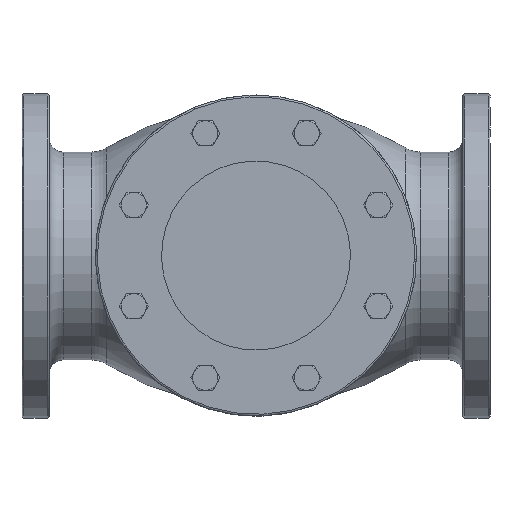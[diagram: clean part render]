
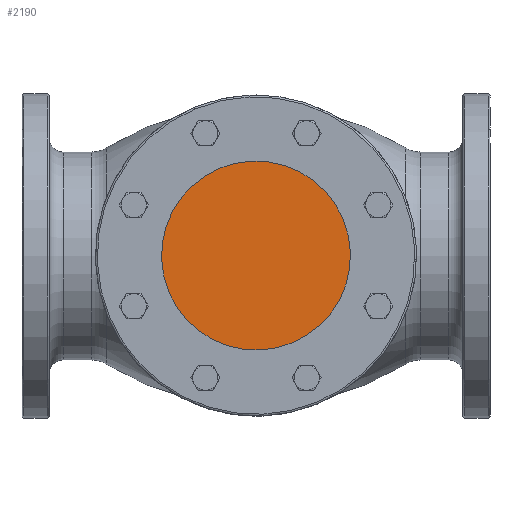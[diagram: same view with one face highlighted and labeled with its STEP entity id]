
A CAD part, top view. The second image highlights one B-rep face of the part: STEP entity #2190.
In plain terms, the highlighted planar face has unit normal (0, 0, 1).
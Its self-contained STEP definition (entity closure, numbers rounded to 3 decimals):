
#222 = VERTEX_POINT('',#223);
#223 = CARTESIAN_POINT('',(4.687,-396.047,
    766.));
#232 = CYLINDRICAL_SURFACE('',#233,100.);
#233 = AXIS2_PLACEMENT_3D('',#234,#235,#236);
#234 = CARTESIAN_POINT('',(-33.582,-303.659,
    766.));
#235 = DIRECTION('',(0.,0.,1.));
#236 = DIRECTION('',(0.383,-0.924,0.)
  );
#244 = CYLINDRICAL_SURFACE('',#245,100.);
#245 = AXIS2_PLACEMENT_3D('',#246,#247,#248);
#246 = CARTESIAN_POINT('',(-33.582,-303.659,
    766.));
#247 = DIRECTION('',(0.,0.,1.));
#248 = DIRECTION('',(0.383,-0.924,0.)
  );
#286 = VERTEX_POINT('',#287);
#287 = CARTESIAN_POINT('',(-71.85,-211.271,
    766.));
#308 = EDGE_CURVE('',#286,#222,#309,.T.);
#309 = SURFACE_CURVE('',#310,(#315,#322),.PCURVE_S1.);
#310 = CIRCLE('',#311,100.);
#311 = AXIS2_PLACEMENT_3D('',#312,#313,#314);
#312 = CARTESIAN_POINT('',(-33.582,-303.659,
    766.));
#313 = DIRECTION('',(0.,0.,1.));
#314 = DIRECTION('',(0.383,-0.924,0.)
  );
#315 = PCURVE('',#232,#316);
#316 = DEFINITIONAL_REPRESENTATION('',(#317),#321);
#317 = LINE('',#318,#319);
#318 = CARTESIAN_POINT('',(0.,0.));
#319 = VECTOR('',#320,1.);
#320 = DIRECTION('',(1.,0.));
#321 = ( GEOMETRIC_REPRESENTATION_CONTEXT(2) 
PARAMETRIC_REPRESENTATION_CONTEXT() REPRESENTATION_CONTEXT('2D SPACE',''
  ) );
#322 = PCURVE('',#323,#328);
#323 = PLANE('',#324);
#324 = AXIS2_PLACEMENT_3D('',#325,#326,#327);
#325 = CARTESIAN_POINT('',(-33.582,-303.659,
    766.));
#326 = DIRECTION('',(0.,0.,1.));
#327 = DIRECTION('',(0.383,-0.924,0.)
  );
#328 = DEFINITIONAL_REPRESENTATION('',(#329),#333);
#329 = CIRCLE('',#330,100.);
#330 = AXIS2_PLACEMENT_2D('',#331,#332);
#331 = CARTESIAN_POINT('',(0.,0.));
#332 = DIRECTION('',(1.,0.));
#333 = ( GEOMETRIC_REPRESENTATION_CONTEXT(2) 
PARAMETRIC_REPRESENTATION_CONTEXT() REPRESENTATION_CONTEXT('2D SPACE',''
  ) );
#2168 = EDGE_CURVE('',#222,#286,#2169,.T.);
#2169 = SURFACE_CURVE('',#2170,(#2175,#2182),.PCURVE_S1.);
#2170 = CIRCLE('',#2171,100.);
#2171 = AXIS2_PLACEMENT_3D('',#2172,#2173,#2174);
#2172 = CARTESIAN_POINT('',(-33.582,-303.659,
    766.));
#2173 = DIRECTION('',(0.,0.,1.));
#2174 = DIRECTION('',(0.383,-0.924,0.)
  );
#2175 = PCURVE('',#244,#2176);
#2176 = DEFINITIONAL_REPRESENTATION('',(#2177),#2181);
#2177 = LINE('',#2178,#2179);
#2178 = CARTESIAN_POINT('',(0.,0.));
#2179 = VECTOR('',#2180,1.);
#2180 = DIRECTION('',(1.,0.));
#2181 = ( GEOMETRIC_REPRESENTATION_CONTEXT(2) 
PARAMETRIC_REPRESENTATION_CONTEXT() REPRESENTATION_CONTEXT('2D SPACE',''
  ) );
#2182 = PCURVE('',#323,#2183);
#2183 = DEFINITIONAL_REPRESENTATION('',(#2184),#2188);
#2184 = CIRCLE('',#2185,100.);
#2185 = AXIS2_PLACEMENT_2D('',#2186,#2187);
#2186 = CARTESIAN_POINT('',(0.,0.));
#2187 = DIRECTION('',(1.,0.));
#2188 = ( GEOMETRIC_REPRESENTATION_CONTEXT(2) 
PARAMETRIC_REPRESENTATION_CONTEXT() REPRESENTATION_CONTEXT('2D SPACE',''
  ) );
#2190 = ADVANCED_FACE('',(#2191),#323,.T.);
#2191 = FACE_BOUND('',#2192,.T.);
#2192 = EDGE_LOOP('',(#2193,#2194));
#2193 = ORIENTED_EDGE('',*,*,#2168,.T.);
#2194 = ORIENTED_EDGE('',*,*,#308,.T.);
